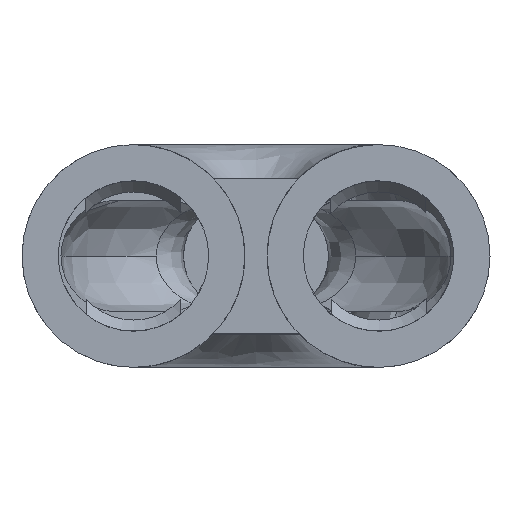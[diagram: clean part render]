
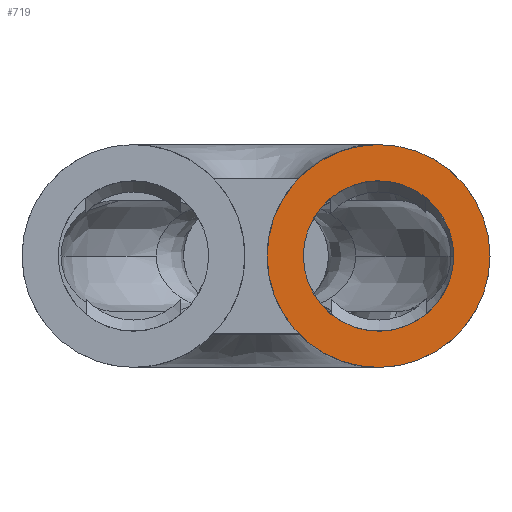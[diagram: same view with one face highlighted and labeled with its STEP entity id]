
A CAD part, front view. The second image highlights one B-rep face of the part: STEP entity #719.
In plain terms, the highlighted planar face has unit normal (0, -1, 0) as drawn and (0, 1, 0) by its records, which use the part's own axes.
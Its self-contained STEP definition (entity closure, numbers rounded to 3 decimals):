
#73 = EDGE_CURVE ( 'NONE', #6038, #6036, #969, .T. ) ;
#310 = VERTEX_POINT ( 'NONE', #1484 ) ;
#312 = EDGE_CURVE ( 'NONE', #310, #354, #1481, .T. ) ;
#354 = VERTEX_POINT ( 'NONE', #1580 ) ;
#647 = EDGE_CURVE ( 'NONE', #354, #310, #2355, .T. ) ;
#648 = EDGE_CURVE ( 'NONE', #6036, #6038, #2348, .T. ) ;
#653 = EDGE_LOOP ( 'NONE', ( #715, #716 ) ) ;
#715 = ORIENTED_EDGE ( 'NONE', *, *, #647, .T. ) ;
#716 = ORIENTED_EDGE ( 'NONE', *, *, #312, .T. ) ;
#719 = ADVANCED_FACE ( 'NONE', ( #2437, #2453 ), #2450, .F. ) ;
#720 = EDGE_LOOP ( 'NONE', ( #721, #723 ) ) ;
#721 = ORIENTED_EDGE ( 'NONE', *, *, #73, .F. ) ;
#723 = ORIENTED_EDGE ( 'NONE', *, *, #648, .F. ) ;
#929 = CARTESIAN_POINT ( 'NONE',  ( -12.732, 10.849, 0. ) ) ;
#964 = DIRECTION ( 'NONE',  ( 0., 0., 1. ) ) ;
#969 = CIRCLE ( 'NONE', #970, 10. ) ;
#970 = AXIS2_PLACEMENT_3D ( 'NONE', #929, #976, #964 ) ;
#976 = DIRECTION ( 'NONE',  ( 0., -1., 0. ) ) ;
#1467 = CARTESIAN_POINT ( 'NONE',  ( -12.732, 10.849, 0. ) ) ;
#1469 = AXIS2_PLACEMENT_3D ( 'NONE', #1467, #1528, #1527 ) ;
#1481 = CIRCLE ( 'NONE', #1469, 6.75 ) ;
#1484 = CARTESIAN_POINT ( 'NONE',  ( -12.732, 10.849, -6.75 ) ) ;
#1527 = DIRECTION ( 'NONE',  ( 0., 0., 1. ) ) ;
#1528 = DIRECTION ( 'NONE',  ( 0., -1., 0. ) ) ;
#1580 = CARTESIAN_POINT ( 'NONE',  ( -12.732, 10.849, 6.75 ) ) ;
#2290 = AXIS2_PLACEMENT_3D ( 'NONE', #2347, #2339, #2338 ) ;
#2338 = DIRECTION ( 'NONE',  ( 0., 0., 1. ) ) ;
#2339 = DIRECTION ( 'NONE',  ( 0., -1., 0. ) ) ;
#2343 = DIRECTION ( 'NONE',  ( 0., 0., 1. ) ) ;
#2344 = DIRECTION ( 'NONE',  ( 0., -1., 0. ) ) ;
#2345 = CARTESIAN_POINT ( 'NONE',  ( -12.732, 10.849, 0. ) ) ;
#2346 = AXIS2_PLACEMENT_3D ( 'NONE', #2345, #2344, #2343 ) ;
#2347 = CARTESIAN_POINT ( 'NONE',  ( -12.732, 10.849, 0. ) ) ;
#2348 = CIRCLE ( 'NONE', #2290, 10. ) ;
#2355 = CIRCLE ( 'NONE', #2346, 6.75 ) ;
#2437 = FACE_OUTER_BOUND ( 'NONE', #720, .T. ) ;
#2440 = AXIS2_PLACEMENT_3D ( 'NONE', #2447, #2441, #2482 ) ;
#2441 = DIRECTION ( 'NONE',  ( 0., -1., 0. ) ) ;
#2447 = CARTESIAN_POINT ( 'NONE',  ( -12.732, 10.849, -6.75 ) ) ;
#2450 = PLANE ( 'NONE',  #2440 ) ;
#2453 = FACE_BOUND ( 'NONE', #653, .T. ) ;
#2482 = DIRECTION ( 'NONE',  ( 0., 0., 1. ) ) ;
#5059 = CARTESIAN_POINT ( 'NONE',  ( -12.732, 10.849, -10. ) ) ;
#5060 = CARTESIAN_POINT ( 'NONE',  ( -12.732, 10.849, 10. ) ) ;
#6036 = VERTEX_POINT ( 'NONE', #5059 ) ;
#6038 = VERTEX_POINT ( 'NONE', #5060 ) ;
